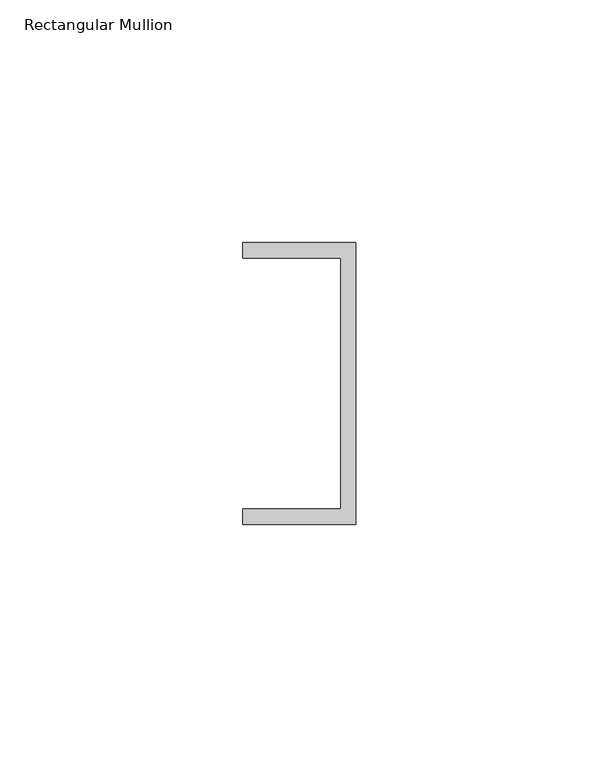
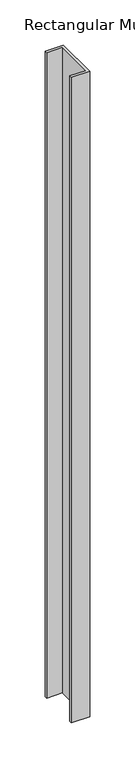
"""IFC4 building model written with IfcOpenShell, lengths in millimetres: member geometry, Rectangular Mullion : Frame-Teknion-Altos-Base_Channel."""

from ifc_helpers import new_model, si_unit, frame, origin, place, context, project, spatial, polyline, outline, extrude, source, transform, mapped, element, save


def rectangular_mullion_553b35be(model_context):
    return source(origin(), model_context, "Body", "SweptSolid", [
        extrude(outline(polyline([(0.0, 29.0214844), (0.0, -29.0214844), (-23.3164063, -29.0214844), (-23.3164063, -25.8464844), (-3.175, -25.8464844), (-3.175, 25.8464844), (-23.3164063, 25.8464844), (-23.3164063, 29.0214844), (0.0, 29.0214844)])), frame((0.0, 0.0, -872.4304688), z_axis=(0.0, 0.0, 1.0), x_axis=(1.0, 0.0, 0.0)), (0.0, 0.0, 1.0), 872.4304688),
    ])


if __name__ == "__main__":
    model = new_model("IFC4")
    model_context = context("Model", 3, world=origin())
    ifc_project = project(units=[si_unit("LENGTHUNIT", "METRE", prefix="MILLI")], contexts=[model_context])
    site = spatial("IfcSite", under=ifc_project)
    building = spatial("IfcBuilding", under=site)
    placement = place(None, origin())
    rectangular_mullion_shape = rectangular_mullion_553b35be(model_context)
    element("IfcMember", 1, ObjectType="Rectangular Mullion : Frame-Teknion-Altos-Base_Channel", at=placement, inside=building, context=model_context, shape_type="MappedRepresentation", body=[
        mapped(rectangular_mullion_shape, transform((0.0, 0.0, 0.0), x_axis=(1.0, 0.0, 0.0), y_axis=(0.0, 1.0, 0.0), z_axis=(0.0, 0.0, 1.0))),
    ])
    save(model, "model.ifc")
